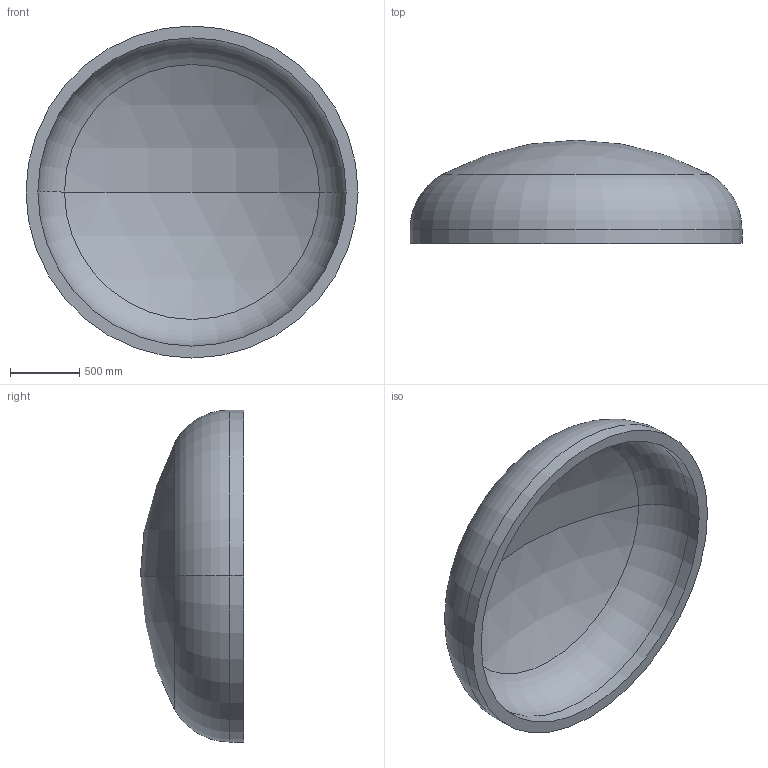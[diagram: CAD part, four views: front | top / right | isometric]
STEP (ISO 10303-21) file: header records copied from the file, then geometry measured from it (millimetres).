
FILE_DESCRIPTION (( 'STEP AP203' ), '1' );
FILE_NAME ('DIN 28013 Korbbogenform_-_Boden DIN 28013 - 2400 x 100 - I - s=86.step', '2016-07-01T15:37:34', ( '' ), ( '' ), 'SwSTEP 2.0', 'SolidWorks 2013', '' );
FILE_SCHEMA (( 'CONFIG_CONTROL_DESIGN' ));
Length unit declared in the file: millimetre
Products named in the file (1): DIN 28013 Korbbogenform_-_Boden DIN 28013 - 2400 x 100 - I - s=86
Bounding box: 2400 x 746.23 x 2400 mm (x, y, z)
Volume: 576938654.9 mm3; surface area: 14057853.6 mm2
Topology: 1 solids, 1 shells, 13 faces, 24 edges, 14 vertices
Faces by surface type: torus 4, cylinder 4, sphere 4, plane 1
Entity records: 407 total; most frequent: DIRECTION 72, CARTESIAN_POINT 52, ORIENTED_EDGE 48, AXIS2_PLACEMENT_3D 34, EDGE_CURVE 24, CIRCLE 20, VERTEX_POINT 14, EDGE_LOOP 14
